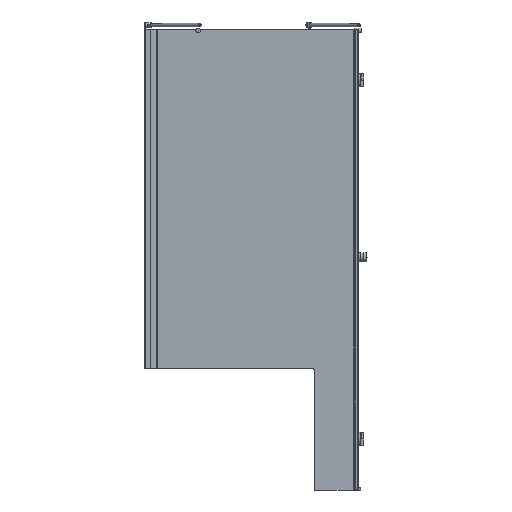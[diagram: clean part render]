
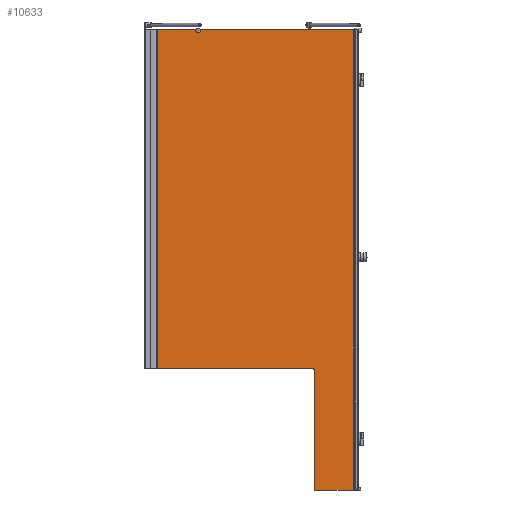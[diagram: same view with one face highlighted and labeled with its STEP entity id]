
A CAD part, front view. The second image highlights one B-rep face of the part: STEP entity #10633.
In plain terms, the highlighted planar face has unit normal (0, -1, 0).
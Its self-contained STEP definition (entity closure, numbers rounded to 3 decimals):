
#264=CIRCLE($,#11316,10.);
#265=CIRCLE($,#11317,2.);
#266=CIRCLE($,#11318,10.);
#840=FACE_OUTER_BOUND($,#1421,.T.);
#1421=EDGE_LOOP($,(#7305,#7306,#7307,#7308,#7309,#7310,#7311,#7312,#7313,
#7314,#7315,#7316,#7317,#7318));
#2144=LINE($,#16062,#3210);
#2154=LINE($,#16083,#3220);
#2160=LINE($,#16098,#3226);
#2161=LINE($,#16102,#3227);
#2162=LINE($,#16104,#3228);
#2163=LINE($,#16106,#3229);
#2164=LINE($,#16108,#3230);
#2165=LINE($,#16110,#3231);
#2166=LINE($,#16114,#3232);
#2167=LINE($,#16116,#3233);
#2168=LINE($,#16118,#3234);
#3210=VECTOR($,#12798,160.474);
#3220=VECTOR($,#12814,1400.);
#3226=VECTOR($,#12832,641.);
#3227=VECTOR($,#12835,490.);
#3228=VECTOR($,#12836,0.019);
#3229=VECTOR($,#12837,1.);
#3230=VECTOR($,#12838,158.4);
#3231=VECTOR($,#12839,1.);
#3232=VECTOR($,#12842,1.419);
#3233=VECTOR($,#12843,1898.);
#3234=VECTOR($,#12844,631.666);
#4308=VERTEX_POINT($,#16059);
#4309=VERTEX_POINT($,#16061);
#4317=VERTEX_POINT($,#16081);
#4320=VERTEX_POINT($,#16097);
#4321=VERTEX_POINT($,#16099);
#4322=VERTEX_POINT($,#16101);
#4323=VERTEX_POINT($,#16103);
#4324=VERTEX_POINT($,#16105);
#4325=VERTEX_POINT($,#16107);
#4326=VERTEX_POINT($,#16109);
#4327=VERTEX_POINT($,#16111);
#4328=VERTEX_POINT($,#16113);
#4329=VERTEX_POINT($,#16115);
#4330=VERTEX_POINT($,#16117);
#5433=EDGE_CURVE($,#4309,#4308,#2144,.T.);
#5444=EDGE_CURVE($,#4308,#4317,#2154,.T.);
#5451=EDGE_CURVE($,#4317,#4320,#2160,.T.);
#5452=EDGE_CURVE($,#4321,#4320,#264,.T.);
#5453=EDGE_CURVE($,#4321,#4322,#2161,.T.);
#5454=EDGE_CURVE($,#4323,#4322,#2162,.T.);
#5455=EDGE_CURVE($,#4323,#4324,#2163,.T.);
#5456=EDGE_CURVE($,#4324,#4325,#2164,.T.);
#5457=EDGE_CURVE($,#4326,#4325,#2165,.T.);
#5458=EDGE_CURVE($,#4326,#4327,#265,.T.);
#5459=EDGE_CURVE($,#4327,#4328,#2166,.T.);
#5460=EDGE_CURVE($,#4328,#4329,#2167,.T.);
#5461=EDGE_CURVE($,#4329,#4330,#2168,.T.);
#5462=EDGE_CURVE($,#4330,#4309,#266,.T.);
#7305=ORIENTED_EDGE($,*,*,#5451,.T.);
#7306=ORIENTED_EDGE($,*,*,#5452,.F.);
#7307=ORIENTED_EDGE($,*,*,#5453,.T.);
#7308=ORIENTED_EDGE($,*,*,#5454,.F.);
#7309=ORIENTED_EDGE($,*,*,#5455,.T.);
#7310=ORIENTED_EDGE($,*,*,#5456,.T.);
#7311=ORIENTED_EDGE($,*,*,#5457,.F.);
#7312=ORIENTED_EDGE($,*,*,#5458,.T.);
#7313=ORIENTED_EDGE($,*,*,#5459,.T.);
#7314=ORIENTED_EDGE($,*,*,#5460,.T.);
#7315=ORIENTED_EDGE($,*,*,#5461,.T.);
#7316=ORIENTED_EDGE($,*,*,#5462,.T.);
#7317=ORIENTED_EDGE($,*,*,#5433,.T.);
#7318=ORIENTED_EDGE($,*,*,#5444,.T.);
#9642=PLANE($,#11315);
#10633=ADVANCED_FACE($,(#840),#9642,.T.);
#11315=AXIS2_PLACEMENT_3D($,#16096,#12830,#12831);
#11316=AXIS2_PLACEMENT_3D($,#16100,#12833,#12834);
#11317=AXIS2_PLACEMENT_3D($,#16112,#12840,#12841);
#11318=AXIS2_PLACEMENT_3D($,#16119,#12845,#12846);
#12798=DIRECTION($,(-1.,0.,0.));
#12814=DIRECTION($,(0.,0.,-1.));
#12830=DIRECTION('center_axis',(0.,-1.,0.));
#12831=DIRECTION('ref_axis',(-1.,0.,0.));
#12832=DIRECTION($,(1.,0.,0.));
#12833=DIRECTION('center_axis',(0.,-1.,0.));
#12834=DIRECTION('ref_axis',(0.707,0.,0.707));
#12835=DIRECTION($,(0.,0.,-1.));
#12836=DIRECTION($,(-1.,0.,0.));
#12837=DIRECTION($,(0.,0.,-1.));
#12838=DIRECTION($,(1.,0.,0.));
#12839=DIRECTION($,(0.,0.,-1.));
#12840=DIRECTION('center_axis',(0.,1.,0.));
#12841=DIRECTION('ref_axis',(-0.707,0.,0.707));
#12842=DIRECTION($,(-1.,0.,0.));
#12843=DIRECTION($,(0.,0.,1.));
#12844=DIRECTION($,(-1.,0.,0.));
#12845=DIRECTION('center_axis',(0.,1.,0.));
#12846=DIRECTION('ref_axis',(0.,0.,
-1.));
#16059=CARTESIAN_POINT('',(416.019,45.956,1385.944));
#16061=CARTESIAN_POINT('',(576.493,45.956,1385.944));
#16062=CARTESIAN_POINT($,(1231.019,45.956,1385.944));
#16081=CARTESIAN_POINT('',(416.019,45.956,-14.056));
#16083=CARTESIAN_POINT($,(416.019,45.956,685.944));
#16096=CARTESIAN_POINT('Origin',(1231.019,45.956,1385.944));
#16097=CARTESIAN_POINT('',(1057.019,45.956,-14.056));
#16098=CARTESIAN_POINT($,(1149.019,45.956,-14.056));
#16099=CARTESIAN_POINT('',(1067.019,45.956,-24.056));
#16100=CARTESIAN_POINT('Origin',(1057.019,45.956,-24.056));
#16101=CARTESIAN_POINT('',(1067.019,45.956,-514.056));
#16102=CARTESIAN_POINT($,(1067.019,45.956,435.944));
#16103=CARTESIAN_POINT('',(1067.038,45.956,-514.056));
#16104=CARTESIAN_POINT($,(1231.019,45.956,-514.056));
#16105=CARTESIAN_POINT('',(1067.038,45.956,-515.056));
#16106=CARTESIAN_POINT($,(1067.038,45.956,-514.056));
#16107=CARTESIAN_POINT('',(1225.438,45.956,-515.056));
#16108=CARTESIAN_POINT($,(1067.038,45.956,-515.056));
#16109=CARTESIAN_POINT('',(1225.438,45.956,-514.056));
#16110=CARTESIAN_POINT($,(1225.438,45.956,-514.056));
#16111=CARTESIAN_POINT('',(1227.438,45.956,-512.056));
#16112=CARTESIAN_POINT('Origin',(1227.438,45.956,-514.056));
#16113=CARTESIAN_POINT('',(1226.019,45.956,-512.056));
#16114=CARTESIAN_POINT($,(1228.902,45.956,-512.056));
#16115=CARTESIAN_POINT('',(1226.019,45.956,1385.944));
#16116=CARTESIAN_POINT($,(1226.019,45.956,436.944));
#16117=CARTESIAN_POINT('',(594.353,45.956,1385.944));
#16118=CARTESIAN_POINT($,(1231.019,45.956,1385.944));
#16119=CARTESIAN_POINT('Origin',(585.423,45.956,1381.444));
